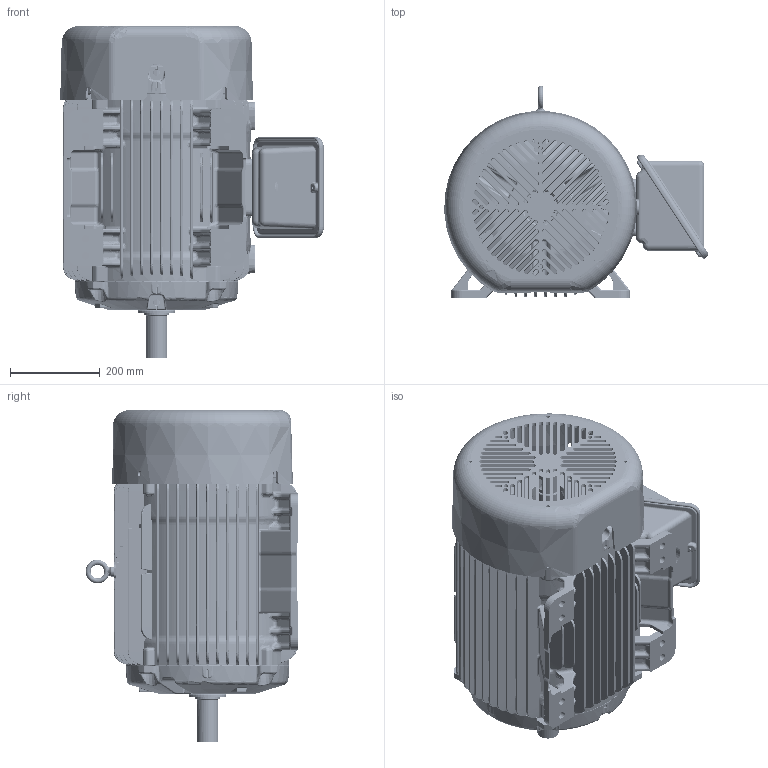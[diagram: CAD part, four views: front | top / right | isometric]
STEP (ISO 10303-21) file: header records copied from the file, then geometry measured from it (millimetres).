
FILE_DESCRIPTION((''),'2;1');
FILE_NAME('GP_ASSY_ASM','2014-06-19T',('NMC779F'),('Nidec Motor Corporation'),'PRO/ENGINEER BY PARAMETRIC TECHNOLOGY CORPORATION, 2013150','PRO/ENGINEER BY PARAMETRIC TECHNOLOGY CORPORATION, 2013150','');
FILE_SCHEMA(('CONFIG_CONTROL_DESIGN'));
Products named in the file (11): 0984296; 0989171; 0116263; 0416265; 0989170; 320_INPRO; 0981270; 0997226; 0997227; 0133166; GP_ASSY_ASM
Assembly tree (10 placements, depth 2):
  GP_ASSY_ASM
    0984296
    0989171
    0116263
    0416265
    0989170
    320_INPRO
    0981270
    0997226
    0997227
    0133166
Bounding box: 588.9 x 475.23 x 741.92 mm (x, y, z)
Volume: 16268523.7 mm3; surface area: 4109448.3 mm2
Topology: 12 solids, 12 shells, 6038 faces, 14794 edges, 8758 vertices
Faces by surface type: bspline 2325, plane 1289, cylinder 1119, torus 472, cone 407, extrusion 308, sphere 118
Entity records: 277796 total; most frequent: CARTESIAN_POINT 154544, ORIENTED_EDGE 29500, DIRECTION 19736, EDGE_CURVE 14750, VERTEX_POINT 8758, AXIS2_PLACEMENT_3D 7448, B_SPLINE_CURVE_WITH_KNOTS 6504, EDGE_LOOP 6294
